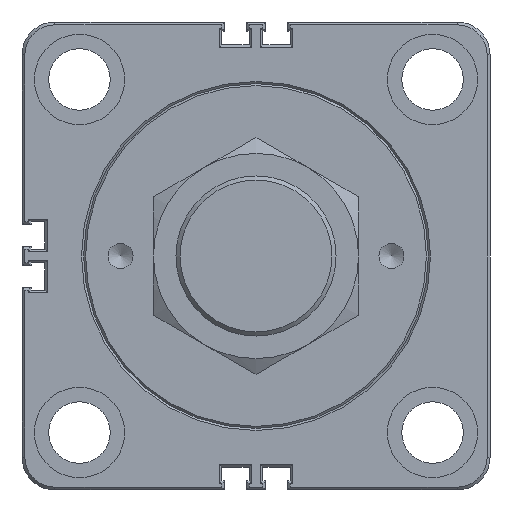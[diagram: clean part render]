
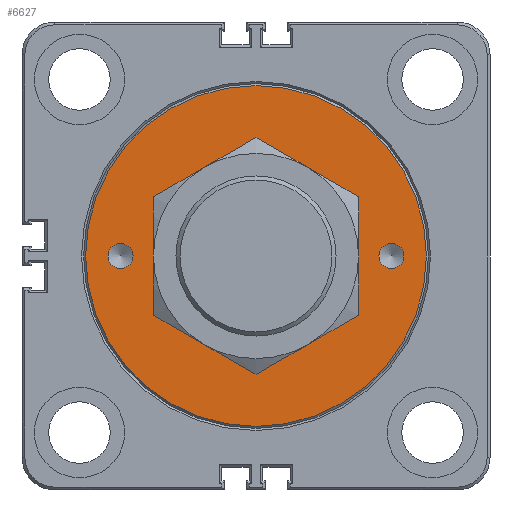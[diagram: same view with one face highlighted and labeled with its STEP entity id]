
A CAD part, front view. The second image highlights one B-rep face of the part: STEP entity #6627.
In plain terms, the highlighted planar face has unit normal (0, -1, 0).
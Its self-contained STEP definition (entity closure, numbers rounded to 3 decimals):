
#194=CIRCLE('',#7003,41.5);
#195=CIRCLE('',#7005,22.5);
#196=CIRCLE('',#7007,3.05);
#197=CIRCLE('',#7008,3.05);
#1845=ORIENTED_EDGE('',*,*,#2822,.T.);
#1846=ORIENTED_EDGE('',*,*,#2821,.F.);
#1847=ORIENTED_EDGE('',*,*,#2823,.T.);
#1848=ORIENTED_EDGE('',*,*,#2820,.T.);
#2820=EDGE_CURVE('',#3311,#3311,#194,.T.);
#2821=EDGE_CURVE('',#3312,#3312,#195,.T.);
#2822=EDGE_CURVE('',#3313,#3313,#196,.T.);
#2823=EDGE_CURVE('',#3314,#3314,#197,.T.);
#3311=VERTEX_POINT('',#10096);
#3312=VERTEX_POINT('',#10099);
#3313=VERTEX_POINT('',#10102);
#3314=VERTEX_POINT('',#10104);
#3654=EDGE_LOOP('',(#1845));
#3655=EDGE_LOOP('',(#1846));
#3656=EDGE_LOOP('',(#1847));
#3657=EDGE_LOOP('',(#1848));
#4017=FACE_BOUND('',#3654,.T.);
#4018=FACE_BOUND('',#3655,.T.);
#4019=FACE_BOUND('',#3656,.T.);
#4020=FACE_BOUND('',#3657,.T.);
#4232=PLANE('',#7006);
#6627=ADVANCED_FACE('',(#4017,#4018,#4019,#4020),#4232,.T.);
#7003=AXIS2_PLACEMENT_3D('',#10095,#7931,#7932);
#7005=AXIS2_PLACEMENT_3D('',#10098,#7935,#7936);
#7006=AXIS2_PLACEMENT_3D('',#10100,#7937,#7938);
#7007=AXIS2_PLACEMENT_3D('',#10101,#7939,#7940);
#7008=AXIS2_PLACEMENT_3D('',#10103,#7941,#7942);
#7931=DIRECTION('',(0.,-1.,0.));
#7932=DIRECTION('',(0.,0.,-1.));
#7935=DIRECTION('',(0.,-1.,0.));
#7936=DIRECTION('',(1.,0.,0.));
#7937=DIRECTION('',(0.,-1.,0.));
#7938=DIRECTION('',(1.,0.,0.));
#7939=DIRECTION('',(0.,1.,0.));
#7940=DIRECTION('',(0.,0.,-1.));
#7941=DIRECTION('',(0.,1.,0.));
#7942=DIRECTION('',(0.,0.,-1.));
#10095=CARTESIAN_POINT('',(0.,0.,0.));
#10096=CARTESIAN_POINT('',(0.,0.,-41.5));
#10098=CARTESIAN_POINT('',(0.,0.,0.));
#10099=CARTESIAN_POINT('',(22.5,0.,0.));
#10100=CARTESIAN_POINT('',(-49.,0.,49.));
#10101=CARTESIAN_POINT('',(-33.,0.,0.));
#10102=CARTESIAN_POINT('',(-33.,0.,-3.05));
#10103=CARTESIAN_POINT('',(33.,0.,0.));
#10104=CARTESIAN_POINT('',(33.,0.,-3.05));
